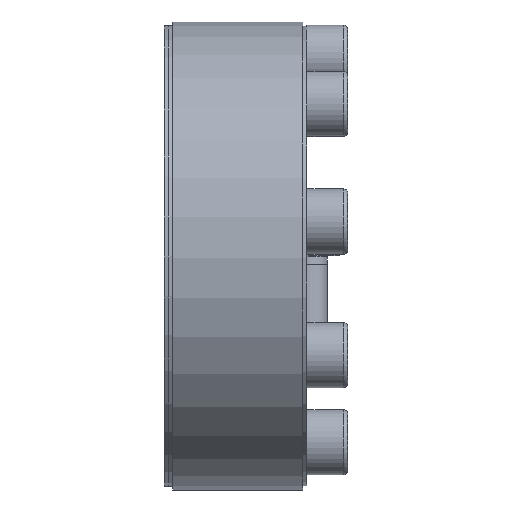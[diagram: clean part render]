
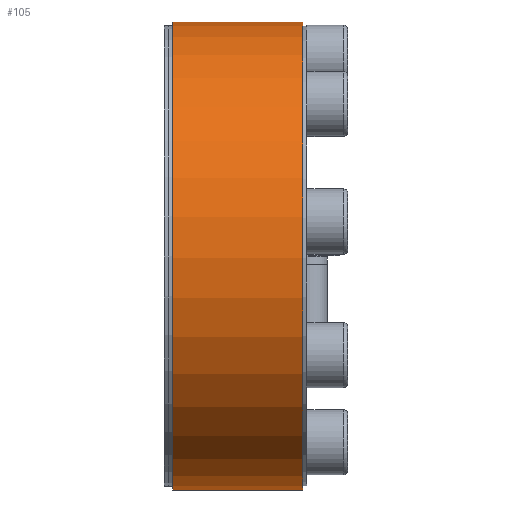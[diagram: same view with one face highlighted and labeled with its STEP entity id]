
A CAD part, left-side view. The second image highlights one B-rep face of the part: STEP entity #105.
In plain terms, the highlighted cylindrical face has radius 57.5 mm (diameter 115 mm), a partial arc.
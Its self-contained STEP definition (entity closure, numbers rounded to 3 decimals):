
#105 = ADVANCED_FACE( '', ( #229 ), #230, .T. );
#229 = FACE_OUTER_BOUND( '', #379, .T. );
#230 = CYLINDRICAL_SURFACE( '', #380, 57.5 );
#379 = EDGE_LOOP( '', ( #634, #635, #636, #637 ) );
#380 = AXIS2_PLACEMENT_3D( '', #638, #639, #640 );
#634 = ORIENTED_EDGE( '', *, *, #809, .F. );
#635 = ORIENTED_EDGE( '', *, *, #831, .T. );
#636 = ORIENTED_EDGE( '', *, *, #855, .T. );
#637 = ORIENTED_EDGE( '', *, *, #839, .F. );
#638 = CARTESIAN_POINT( '', ( 0., -60., 0. ) );
#639 = DIRECTION( '', ( 0., 1., 0. ) );
#640 = DIRECTION( '', ( 0., 0., -1. ) );
#809 = EDGE_CURVE( '', #974, #975, #976, .T. );
#831 = EDGE_CURVE( '', #974, #1015, #1016, .T. );
#839 = EDGE_CURVE( '', #975, #1027, #1028, .T. );
#855 = EDGE_CURVE( '', #1015, #1027, #1053, .T. );
#974 = VERTEX_POINT( '', #1266 );
#975 = VERTEX_POINT( '', #1267 );
#976 = LINE( '', #1268, #1269 );
#1015 = VERTEX_POINT( '', #1321 );
#1016 = CIRCLE( '', #1322, 57.5 );
#1027 = VERTEX_POINT( '', #1336 );
#1028 = CIRCLE( '', #1337, 57.5 );
#1053 = LINE( '', #1374, #1375 );
#1266 = CARTESIAN_POINT( '', ( 18.723, 33., 54.366 ) );
#1267 = CARTESIAN_POINT( '', ( 18.723, 1., 54.366 ) );
#1268 = CARTESIAN_POINT( '', ( 18.723, -60., 54.366 ) );
#1269 = VECTOR( '', #1477, 1000. );
#1321 = CARTESIAN_POINT( '', ( 20.603, 33., 53.682 ) );
#1322 = AXIS2_PLACEMENT_3D( '', #1512, #1513, #1514 );
#1336 = CARTESIAN_POINT( '', ( 20.603, 1., 53.682 ) );
#1337 = AXIS2_PLACEMENT_3D( '', #1524, #1525, #1526 );
#1374 = CARTESIAN_POINT( '', ( 20.603, -60., 53.682 ) );
#1375 = VECTOR( '', #1542, 1000. );
#1477 = DIRECTION( '', ( 0., -1., 0. ) );
#1512 = CARTESIAN_POINT( '', ( 0., 33., 0. ) );
#1513 = DIRECTION( '', ( 0., -1., 0. ) );
#1514 = DIRECTION( '', ( 0., 0., -1. ) );
#1524 = CARTESIAN_POINT( '', ( 0., 1., 0. ) );
#1525 = DIRECTION( '', ( 0., -1., 0. ) );
#1526 = DIRECTION( '', ( 0., 0., -1. ) );
#1542 = DIRECTION( '', ( 0., -1., 0. ) );
